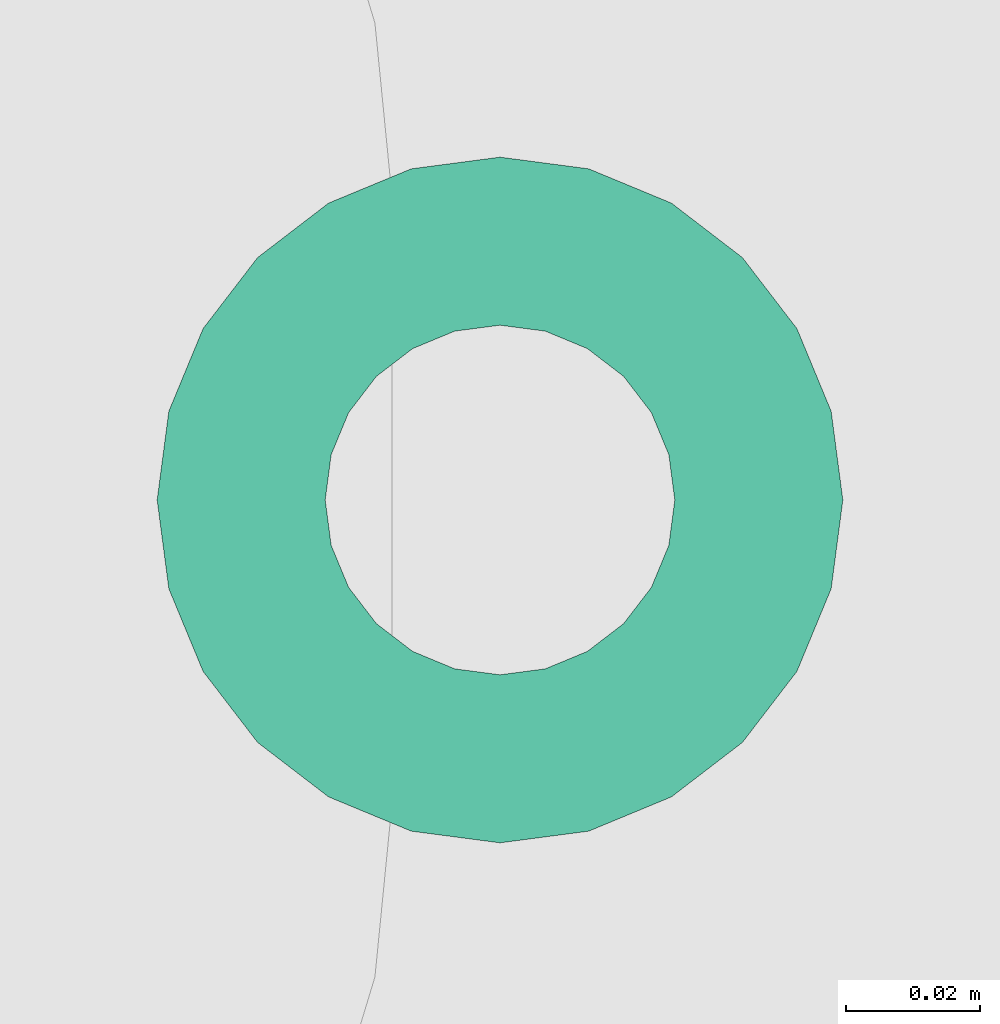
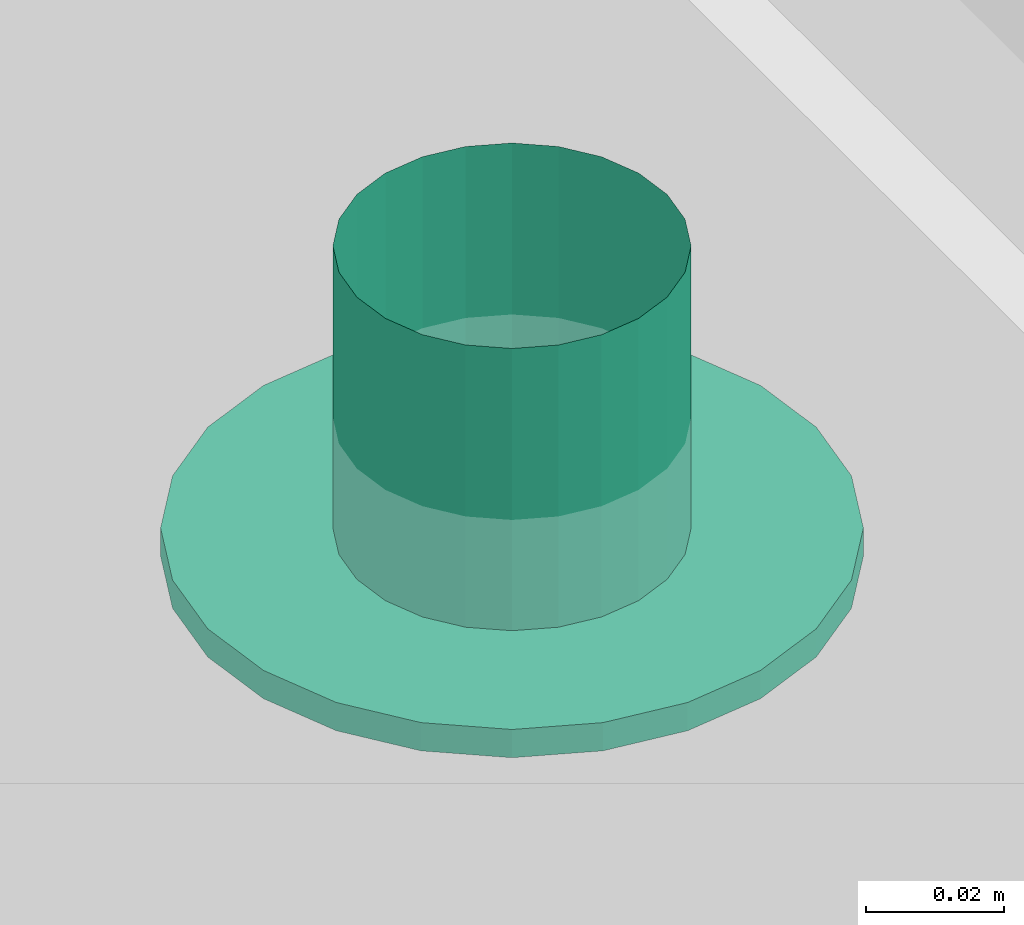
# One storey, part 258 of 347: 1 flow terminal.
"""IFC2X3 building model written with IfcOpenShell, lengths in millimetres."""

import ifcopenshell
import ifcopenshell.guid

model = None  # the IFC model being written
_history = None  # IfcOwnerHistory: only IFC2X3 demands one
_inside = {}  # id of a spatial element -> (the spatial element, [elements in it])
_under = {}  # id of a project, library or spatial element -> (it, [spatial elements below it])
_declared = {}  # id of a project -> (the project, [libraries it declares])
_typed = {}  # id of a type object -> (the type object, [elements of that type])
_made_of = {}  # id of a material, layer set ... -> (it, [elements and type objects made of it])


def new_model(schema):
    """Start an empty IFC model of exactly this schema.

    Asked for "IFC4X3", IfcOpenShell would pick the latest addendum, in which some entities
    have other attributes; the version numbers below select the first issue.
    IFC2X3 requires an IfcOwnerHistory on every rooted entity: one is made here for all.
    """
    global model, _history
    if schema == "IFC4X3":
        model = ifcopenshell.file(schema_version=(4, 3, 0, 0))
    else:
        model = ifcopenshell.file(schema=schema)
    _inside.clear()
    _under.clear()
    _declared.clear()
    _typed.clear()
    _made_of.clear()
    _history = None
    if model.schema == "IFC2X3":
        org = make("IfcOrganization", Name="unknown")
        user = make(
            "IfcPersonAndOrganization",
            ThePerson=make("IfcPerson", FamilyName="unknown"),
            TheOrganization=org,
        )
        app = make(
            "IfcApplication",
            ApplicationDeveloper=org,
            Version="unknown",
            ApplicationFullName="unknown",
            ApplicationIdentifier="unknown",
        )
        _history = make(
            "IfcOwnerHistory",
            OwningUser=user,
            OwningApplication=app,
            ChangeAction="ADDED",
            CreationDate=0,
        )
    return model


def make(cls, **values):
    """One entity of the class cls with the attributes given. An attribute that is None is left unset."""
    return model.create_entity(
        cls, **{name: value for name, value in values.items() if value is not None}
    )


def entity(cls, *values):
    """Any entity or typed value of the class cls, its attributes in the order of the schema. None: left unset."""
    e = model.create_entity(cls)
    for i, value in enumerate(values):
        if value is not None:
            e[i] = value
    return e


def rooted(cls, **values):
    """An entity with a GlobalId (a new one), such as an element, a storey or a relation."""
    return make(cls, GlobalId=ifcopenshell.guid.new(), OwnerHistory=_history, **values)


def si_unit(unit_type, name, prefix=None):
    """IfcSIUnit, for example si_unit("LENGTHUNIT", "METRE", prefix="MILLI")."""
    return make("IfcSIUnit", UnitType=unit_type, Prefix=prefix, Name=name)


def converted_unit(unit_type, name, factor, base, dimensions=None, offset=None):
    """IfcConversionBasedUnit, such as the inch: factor (a typed value) times the base unit."""
    return make(
        "IfcConversionBasedUnit"
        if offset is None
        else "IfcConversionBasedUnitWithOffset",
        ConversionOffset=offset,
        Dimensions=None
        if dimensions is None
        else entity("IfcDimensionalExponents", *dimensions),
        UnitType=unit_type,
        Name=name,
        ConversionFactor=make(
            "IfcMeasureWithUnit", ValueComponent=factor, UnitComponent=base
        ),
    )


def derived_unit(unit_type, elements):
    """IfcDerivedUnit: a product of units, each with its exponent."""
    return make(
        "IfcDerivedUnit",
        Elements=[
            make("IfcDerivedUnitElement", Unit=unit, Exponent=power)
            for unit, power in elements
        ],
        UnitType=unit_type,
    )


def money_unit(currency):
    """IfcMonetaryUnit."""
    return make("IfcMonetaryUnit", Currency=currency)


def assignment(units):
    """IfcUnitAssignment: the units of a project."""
    return None if units is None else make("IfcUnitAssignment", Units=units)


def point(xyz):
    """IfcCartesianPoint."""
    return None if xyz is None else make("IfcCartesianPoint", Coordinates=xyz)


def direction(xyz):
    """IfcDirection."""
    return None if xyz is None else make("IfcDirection", DirectionRatios=xyz)


def frame(location, z_axis=None, x_axis=None):
    """IfcAxis2Placement3D, a coordinate frame: its origin and axes. An axis left out is left unset."""
    return make(
        "IfcAxis2Placement3D",
        Location=point(location),
        Axis=direction(z_axis),
        RefDirection=direction(x_axis),
    )


def origin_with_axes():
    """The frame at (0, 0, 0) with the z axis (0, 0, 1) and the x axis (1, 0, 0) written out."""
    return frame((0.0, 0.0, 0.0), z_axis=(0.0, 0.0, 1.0), x_axis=(1.0, 0.0, 0.0))


def place(relative_to, where):
    """IfcLocalPlacement: puts the frame where relative to a parent placement (None: the world)."""
    return make(
        "IfcLocalPlacement", PlacementRelTo=relative_to, RelativePlacement=where
    )


def context(
    kind, dimensions, precision=None, world=None, true_north=None, identifier=None
):
    """IfcGeometricRepresentationContext, for example the 3D "Model" context."""
    return make(
        "IfcGeometricRepresentationContext",
        ContextIdentifier=identifier,
        ContextType=kind,
        CoordinateSpaceDimension=dimensions,
        Precision=precision,
        WorldCoordinateSystem=world,
        TrueNorth=true_north,
    )


def subcontext(parent, identifier, kind, view, scale=None):
    """IfcGeometricRepresentationSubContext, for example "Body" below "Model"."""
    return make(
        "IfcGeometricRepresentationSubContext",
        ContextIdentifier=identifier,
        ContextType=kind,
        ParentContext=parent,
        TargetScale=scale,
        TargetView=view,
    )


def project(units=None, contexts=None):
    """IfcProject with its units and contexts."""
    return rooted(
        "IfcProject",
        Name="project",
        RepresentationContexts=contexts,
        UnitsInContext=assignment(units),
    )


def spatial(cls, under=None, at=None, **own):
    """A site, building, storey or space (cls), placed at a placement, below another one or the project."""
    s = rooted(cls, ObjectPlacement=at, **own)
    if under is not None:
        _under.setdefault(under.id(), (under, []))[1].append(s)
    return s


def faces_of(points, faces, orient=None, outer=None):
    """IfcFace entities. A face is a list of loops; a loop is a list of indices into points, from 0.

    orient and outer hold one flag for each loop. By default every Orientation is true, the
    first loop of a face is its IfcFaceOuterBound and the others are IfcFaceBound.
    """
    made = []
    for i, loops in enumerate(faces):
        bounds = []
        for j, loop in enumerate(loops):
            is_outer = j == 0 if outer is None else outer[i][j]
            bounds.append(
                make(
                    "IfcFaceOuterBound" if is_outer else "IfcFaceBound",
                    Bound=make("IfcPolyLoop", Polygon=[points[k] for k in loop]),
                    Orientation=True if orient is None else orient[i][j],
                )
            )
        made.append(make("IfcFace", Bounds=bounds))
    return made


def open_shell(faces, orient=None, outer=None):
    """The faces of one IfcOpenShell. surface_model builds it on its shared points."""
    return ("IfcOpenShell", faces, orient, outer)


def faceted_brep(points, faces, orient=None, outer=None, voids=None):
    """IfcFacetedBrep: a solid bounded by flat faces; with voids (closed shells), ...WithVoids."""
    shared = [point(p) for p in points]
    hull = make("IfcClosedShell", CfsFaces=faces_of(shared, faces, orient, outer))
    if voids is None:
        return make("IfcFacetedBrep", Outer=hull)
    return make(
        "IfcFacetedBrepWithVoids",
        Outer=hull,
        Voids=[
            make(cls, CfsFaces=faces_of(shared, fs, o, b)) for cls, fs, o, b in voids
        ],
    )


def surface_model(cls, points, shells):
    """IfcFaceBasedSurfaceModel or IfcShellBasedSurfaceModel (cls): surfaces that need not close."""
    shared = [point(p) for p in points]
    made = [make(c, CfsFaces=faces_of(shared, fs, o, b)) for c, fs, o, b in shells]
    if cls == "IfcFaceBasedSurfaceModel":
        return make(cls, FbsmFaces=made)
    return make(cls, SbsmBoundary=made)


def shape(context_of_items, identifier, shape_type, items):
    """IfcShapeRepresentation: the items that make up one representation, for example the "Body"."""
    return make(
        "IfcShapeRepresentation",
        ContextOfItems=context_of_items,
        RepresentationIdentifier=identifier,
        RepresentationType=shape_type,
        Items=items,
    )


def source(mapping_origin, context_of_items, identifier, shape_type, items):
    """IfcRepresentationMap: a shape defined once, which mapped items show again and again."""
    return make(
        "IfcRepresentationMap",
        MappingOrigin=mapping_origin,
        MappedRepresentation=shape(context_of_items, identifier, shape_type, items),
    )


def transform(
    local_origin,
    x_axis=None,
    y_axis=None,
    z_axis=None,
    scale=None,
    scale2=None,
    scale3=None,
    uniform=True,
):
    """IfcCartesianTransformationOperator3D, or its non-uniform kind. x_axis, y_axis, z_axis: its Axis1, 2, 3."""
    if uniform:
        return make(
            "IfcCartesianTransformationOperator3D",
            Axis1=direction(x_axis),
            Axis2=direction(y_axis),
            LocalOrigin=point(local_origin),
            Scale=scale,
            Axis3=direction(z_axis),
        )
    return make(
        "IfcCartesianTransformationOperator3DnonUniform",
        Axis1=direction(x_axis),
        Axis2=direction(y_axis),
        LocalOrigin=point(local_origin),
        Scale=scale,
        Axis3=direction(z_axis),
        Scale2=scale2,
        Scale3=scale3,
    )


def mapped(mapping_source, mapping_target):
    """IfcMappedItem: shows the shape of a source again, moved by a transform."""
    return make(
        "IfcMappedItem", MappingSource=mapping_source, MappingTarget=mapping_target
    )


def made_of(thing, what):
    """Note that an element or type object is made of a material, layer set ...; save() writes the relation."""
    if what is not None:
        _made_of.setdefault(what.id(), (what, []))[1].append(thing)
    return thing


def type_object(cls, material=None, **own):
    """A type object (cls), such as IfcWallType, which elements share."""
    return made_of(rooted(cls, **own), material)


def type_shapes(of_type, sources):
    """Give a type object the sources (RepresentationMaps) that its elements show as mapped items."""
    of_type.RepresentationMaps = sources


def element(
    cls,
    number,
    at=None,
    inside=None,
    cuts=None,
    type_object=None,
    material=None,
    context=None,
    identifier="Body",
    shape_type=None,
    held_by="IfcProductDefinitionShape",
    body=None,
    shapes=None,
    **own,
):
    """One element of the class cls, such as IfcWall. Its Tag is "e" and its number.

    at: its placement. inside: the storey or other place that contains it. cuts: it is an
    opening in that element (IfcRelVoidsElement). A single representation is given by context,
    identifier, shape_type and body (its items); several are given by shapes. held_by: the class
    of the entity that holds the representations. save() writes the other relations.
    """
    e = rooted(cls, Tag="e%d" % number, ObjectPlacement=at, **own)
    if body is not None:
        shapes = [shape(context, identifier, shape_type, body)]
    if shapes is not None:
        e.Representation = make(held_by, Representations=shapes)
    if inside is not None:
        _inside.setdefault(inside.id(), (inside, []))[1].append(e)
    if cuts is not None:
        rooted(
            "IfcRelVoidsElement", RelatingBuildingElement=cuts, RelatedOpeningElement=e
        )
    if type_object is not None:
        _typed.setdefault(type_object.id(), (type_object, []))[1].append(e)
    return made_of(e, material)


def aggregate(whole, parts):
    """IfcRelAggregates: a whole, such as a stair, and the parts it consists of."""
    return rooted("IfcRelAggregates", RelatingObject=whole, RelatedObjects=parts)


def save(model, path):
    """Write the relations noted so far, then the file.

    IfcRelAggregates (storeys below a building ...), IfcRelContainedInSpatialStructure (elements
    in a storey), IfcRelDefinesByType, IfcRelAssociatesMaterial and IfcRelDeclares: one each for
    every whole, place, type object, material and project.
    """
    for whole, parts in _under.values():
        aggregate(whole, parts)
    for where, things in _inside.values():
        rooted(
            "IfcRelContainedInSpatialStructure",
            RelatedElements=things,
            RelatingStructure=where,
        )
    for kind, things in _typed.values():
        rooted("IfcRelDefinesByType", RelatedObjects=things, RelatingType=kind)
    for what, things in _made_of.values():
        rooted("IfcRelAssociatesMaterial", RelatedObjects=things, RelatingMaterial=what)
    for by, libraries in _declared.values():
        rooted("IfcRelDeclares", RelatingContext=by, RelatedDefinitions=libraries)
    model.write(path)


model = new_model("IFC2X3")

# Units and contexts
model_context = context("Model", 3, precision=0.01, world=origin_with_axes(), true_north=direction((0.0, 1.0)))
plan_context = context("Plan", 3, precision=0.01, world=origin_with_axes(), true_north=direction((0.0, 1.0)))
body_context = subcontext(model_context, "Body", "Model", "MODEL_VIEW")
ifc_project = project(units=[si_unit("LENGTHUNIT", "METRE", prefix="MILLI"), si_unit("AREAUNIT", "SQUARE_METRE"), si_unit("VOLUMEUNIT", "CUBIC_METRE"), converted_unit("PLANEANGLEUNIT", "DEGREE", entity("IfcPlaneAngleMeasure", 0.0174532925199), si_unit("PLANEANGLEUNIT", "RADIAN"), dimensions=[0, 0, 0, 0, 0, 0, 0]), money_unit("EUR"), converted_unit("TIMEUNIT", "Year", entity("IfcTimeMeasure", 31556926.0), si_unit("TIMEUNIT", "SECOND"), dimensions=[0, 0, 1, 0, 0, 0, 0]), si_unit("MASSUNIT", "GRAM", prefix="KILO"), si_unit("THERMODYNAMICTEMPERATUREUNIT", "DEGREE_CELSIUS"), si_unit("LUMINOUSINTENSITYUNIT", "LUMEN"), si_unit("ENERGYUNIT", "JOULE", prefix="MEGA"), derived_unit("THERMALCONDUCTANCEUNIT", [(si_unit("POWERUNIT", "WATT"), 1), (si_unit("LENGTHUNIT", "METRE"), -1), (si_unit("THERMODYNAMICTEMPERATUREUNIT", "KELVIN"), -1)]), derived_unit("SPECIFICHEATCAPACITYUNIT", [(si_unit("ENERGYUNIT", "JOULE"), 1), (si_unit("MASSUNIT", "GRAM", prefix="KILO"), -1), (si_unit("THERMODYNAMICTEMPERATUREUNIT", "KELVIN"), -1)]), derived_unit("MASSDENSITYUNIT", [(si_unit("MASSUNIT", "GRAM", prefix="KILO"), 1), (si_unit("VOLUMEUNIT", "CUBIC_METRE"), -1)])], contexts=[model_context, plan_context])

# Site, building, storey
site_placement = place(None, origin_with_axes())
site = spatial("IfcSite", under=ifc_project, at=site_placement, Name="Site", CompositionType="ELEMENT")
building_placement = place(site_placement, origin_with_axes())
building = spatial("IfcBuilding", under=site, at=building_placement, Name="Naam gebouw", CompositionType="ELEMENT")
storey_placement = place(building_placement, origin_with_axes())
storey = spatial("IfcBuildingStorey", under=building, at=storey_placement, Name="begane grond", CompositionType="ELEMENT", Elevation=0.0)

# Flow terminal
air_terminal_type = type_object("IfcAirTerminalType", Name="Rooster plafond rond 25", PredefinedType="GRILLE")
shared_shape = source(origin_with_axes(), body_context, "Body", "SurfaceModel", [
    faceted_brep([(51.0, 0.0, -5.0), (49.2622171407, 13.1997713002, -5.0), (49.2622171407, 13.1997713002, 0.0), (51.0, 0.0, 0.0), (49.2622171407, -13.1997713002, -5.0), (44.167295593, -25.5, -5.0), (36.0624458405, -36.0624458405, -5.0), (25.5, -44.167295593, -5.0), (13.1997713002, -49.2622171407, -5.0), (0.0, -51.0, -5.0), (-13.1997713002, -49.2622171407, -5.0), (-25.5, -44.167295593, -5.0), (-36.0624458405, -36.0624458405, -5.0), (-44.167295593, -25.5, -5.0), (-49.2622171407, -13.1997713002, -5.0), (-51.0, 0.0, -5.0), (-49.2622171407, 13.1997713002, -5.0), (-44.167295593, 25.5, -5.0), (-36.0624458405, 36.0624458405, -5.0), (-25.5, 44.167295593, -5.0), (-13.1997713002, 49.2622171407, -5.0), (0.0, 51.0, -5.0), (13.1997713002, 49.2622171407, -5.0), (25.5, 44.167295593, -5.0), (36.0624458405, 36.0624458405, -5.0), (44.167295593, 25.5, -5.0), (26.0, 0.0, -5.0), (25.1140714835, 6.72929517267, -5.0), (22.5166604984, 13.0, -5.0), (18.3847763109, 18.3847763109, -5.0), (13.0, 22.5166604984, -5.0), (6.72929517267, 25.1140714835, -5.0), (0.0, 26.0, -5.0), (-6.72929517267, 25.1140714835, -5.0), (-13.0, 22.5166604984, -5.0), (-18.3847763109, 18.3847763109, -5.0), (-22.5166604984, 13.0, -5.0), (-25.1140714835, 6.72929517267, -5.0), (-26.0, 0.0, -5.0), (-25.1140714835, -6.72929517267, -5.0), (-22.5166604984, -13.0, -5.0), (-18.3847763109, -18.3847763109, -5.0), (-13.0, -22.5166604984, -5.0), (-6.72929517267, -25.1140714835, -5.0), (0.0, -26.0, -5.0), (6.72929517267, -25.1140714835, -5.0), (13.0, -22.5166604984, -5.0), (18.3847763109, -18.3847763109, -5.0), (22.5166604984, -13.0, -5.0), (25.1140714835, -6.72929517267, -5.0), (44.167295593, 25.5, 0.0), (36.0624458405, 36.0624458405, 0.0), (25.5, 44.167295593, 0.0), (13.1997713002, 49.2622171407, 0.0), (0.0, 51.0, 0.0), (-13.1997713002, 49.2622171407, 0.0), (-25.5, 44.167295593, 0.0), (-36.0624458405, 36.0624458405, 0.0), (-44.167295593, 25.5, 0.0), (-49.2622171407, 13.1997713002, 0.0), (-51.0, 0.0, 0.0), (-49.2622171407, -13.1997713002, 0.0), (-44.167295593, -25.5, 0.0), (-36.0624458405, -36.0624458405, 0.0), (-25.5, -44.167295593, 0.0), (-13.1997713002, -49.2622171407, 0.0), (0.0, -51.0, 0.0), (13.1997713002, -49.2622171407, 0.0), (25.5, -44.167295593, 0.0), (36.0624458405, -36.0624458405, 0.0), (44.167295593, -25.5, 0.0), (49.2622171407, -13.1997713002, 0.0), (26.0, 0.0, 0.0), (25.1140714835, -6.72929517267, 0.0), (22.5166604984, -13.0, 0.0), (18.3847763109, -18.3847763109, 0.0), (13.0, -22.5166604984, 0.0), (6.72929517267, -25.1140714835, 0.0), (0.0, -26.0, 0.0), (-6.72929517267, -25.1140714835, 0.0), (-13.0, -22.5166604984, 0.0), (-18.3847763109, -18.3847763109, 0.0), (-22.5166604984, -13.0, 0.0), (-25.1140714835, -6.72929517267, 0.0), (-26.0, 0.0, 0.0), (-25.1140714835, 6.72929517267, 0.0), (-22.5166604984, 13.0, 0.0), (-18.3847763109, 18.3847763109, 0.0), (-13.0, 22.5166604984, 0.0), (-6.72929517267, 25.1140714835, 0.0), (0.0, 26.0, 0.0), (6.72929517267, 25.1140714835, 0.0), (13.0, 22.5166604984, 0.0), (18.3847763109, 18.3847763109, 0.0), (22.5166604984, 13.0, 0.0), (25.1140714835, 6.72929517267, 0.0)], [[[0, 1, 2, 3]], [[0, 4, 5, 6, 7, 8, 9, 10, 11, 12, 13, 14, 15, 16, 17, 18, 19, 20, 21, 22, 23, 24, 25, 1], [26, 27, 28, 29, 30, 31, 32, 33, 34, 35, 36, 37, 38, 39, 40, 41, 42, 43, 44, 45, 46, 47, 48, 49]], [[1, 25, 50, 2]], [[3, 2, 50, 51, 52, 53, 54, 55, 56, 57, 58, 59, 60, 61, 62, 63, 64, 65, 66, 67, 68, 69, 70, 71], [72, 73, 74, 75, 76, 77, 78, 79, 80, 81, 82, 83, 84, 85, 86, 87, 88, 89, 90, 91, 92, 93, 94, 95]], [[4, 0, 3, 71]], [[5, 4, 71, 70]], [[6, 5, 70, 69]], [[7, 6, 69, 68]], [[8, 7, 68, 67]], [[9, 8, 67, 66]], [[10, 9, 66, 65]], [[11, 10, 65, 64]], [[12, 11, 64, 63]], [[13, 12, 63, 62]], [[14, 13, 62, 61]], [[15, 14, 61, 60]], [[16, 15, 60, 59]], [[17, 16, 59, 58]], [[18, 17, 58, 57]], [[19, 18, 57, 56]], [[20, 19, 56, 55]], [[21, 20, 55, 54]], [[22, 21, 54, 53]], [[23, 22, 53, 52]], [[24, 23, 52, 51]], [[25, 24, 51, 50]], [[27, 26, 72, 95]], [[28, 27, 95, 94]], [[29, 28, 94, 93]], [[30, 29, 93, 92]], [[31, 30, 92, 91]], [[32, 31, 91, 90]], [[33, 32, 90, 89]], [[34, 33, 89, 88]], [[35, 34, 88, 87]], [[36, 35, 87, 86]], [[37, 36, 86, 85]], [[38, 37, 85, 84]], [[39, 38, 84, 83]], [[40, 39, 83, 82]], [[41, 40, 82, 81]], [[42, 41, 81, 80]], [[43, 42, 80, 79]], [[44, 43, 79, 78]], [[45, 44, 78, 77]], [[46, 45, 77, 76]], [[47, 46, 76, 75]], [[48, 47, 75, 74]], [[49, 48, 74, 73]], [[26, 49, 73, 72]]]),
    surface_model("IfcShellBasedSurfaceModel", [(0.0, -26.0, 0.0), (6.72929517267, -25.1140714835, 0.0), (6.72929517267, -25.1140714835, 50.0), (0.0, -26.0, 50.0), (13.0, -22.5166604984, 0.0), (13.0, -22.5166604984, 50.0), (-6.72929517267, -25.1140714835, 0.0), (-6.72929517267, -25.1140714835, 50.0), (18.3847763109, -18.3847763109, 0.0), (18.3847763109, -18.3847763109, 50.0), (-13.0, -22.5166604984, 0.0), (-13.0, -22.5166604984, 50.0), (22.5166604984, -13.0, 0.0), (22.5166604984, -13.0, 50.0), (-18.3847763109, -18.3847763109, 0.0), (-18.3847763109, -18.3847763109, 50.0), (25.1140714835, -6.72929517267, 0.0), (25.1140714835, -6.72929517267, 50.0), (-22.5166604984, -13.0, 0.0), (-22.5166604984, -13.0, 50.0), (26.0, 0.0, 0.0), (26.0, 0.0, 50.0), (-25.1140714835, -6.72929517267, 0.0), (-25.1140714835, -6.72929517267, 50.0), (25.1140714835, 6.72929517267, 0.0), (25.1140714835, 6.72929517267, 50.0), (-26.0, 0.0, 0.0), (-26.0, 0.0, 50.0), (22.5166604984, 13.0, 0.0), (22.5166604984, 13.0, 50.0), (-25.1140714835, 6.72929517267, 0.0), (-25.1140714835, 6.72929517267, 50.0), (18.3847763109, 18.3847763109, 0.0), (18.3847763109, 18.3847763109, 50.0), (-22.5166604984, 13.0, 0.0), (-22.5166604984, 13.0, 50.0), (13.0, 22.5166604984, 0.0), (13.0, 22.5166604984, 50.0), (-18.3847763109, 18.3847763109, 0.0), (-18.3847763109, 18.3847763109, 50.0), (6.72929517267, 25.1140714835, 0.0), (6.72929517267, 25.1140714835, 50.0), (-13.0, 22.5166604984, 0.0), (-13.0, 22.5166604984, 50.0), (0.0, 26.0, 0.0), (0.0, 26.0, 50.0), (-6.72929517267, 25.1140714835, 0.0), (-6.72929517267, 25.1140714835, 50.0)], [open_shell([[[0, 1, 2, 3]], [[1, 4, 5, 2]], [[6, 0, 3, 7]], [[4, 8, 9, 5]], [[10, 6, 7, 11]], [[8, 12, 13, 9]], [[14, 10, 11, 15]], [[12, 16, 17, 13]], [[18, 14, 15, 19]], [[16, 20, 21, 17]], [[22, 18, 19, 23]], [[20, 24, 25, 21]], [[26, 22, 23, 27]], [[24, 28, 29, 25]], [[30, 26, 27, 31]], [[28, 32, 33, 29]], [[34, 30, 31, 35]], [[32, 36, 37, 33]], [[38, 34, 35, 39]], [[36, 40, 41, 37]], [[42, 38, 39, 43]], [[40, 44, 45, 41]], [[46, 42, 43, 47]], [[44, 46, 47, 45]]])]),
])
type_shapes(air_terminal_type, [shared_shape])
flow_terminal_placement = place(storey_placement, frame((38066.0, 33189.9999277, 2600.0), z_axis=(0.0, 0.0, 1.0), x_axis=(1.0, 0.0, 0.0)))
element("IfcFlowTerminal", 1, at=flow_terminal_placement, inside=storey, type_object=air_terminal_type, Name="57_78 garderobe", context=body_context, shape_type="MappedRepresentation", body=[
    mapped(shared_shape, transform((0.0, 0.0, 0.0))),
])

save(model, "model.ifc")
